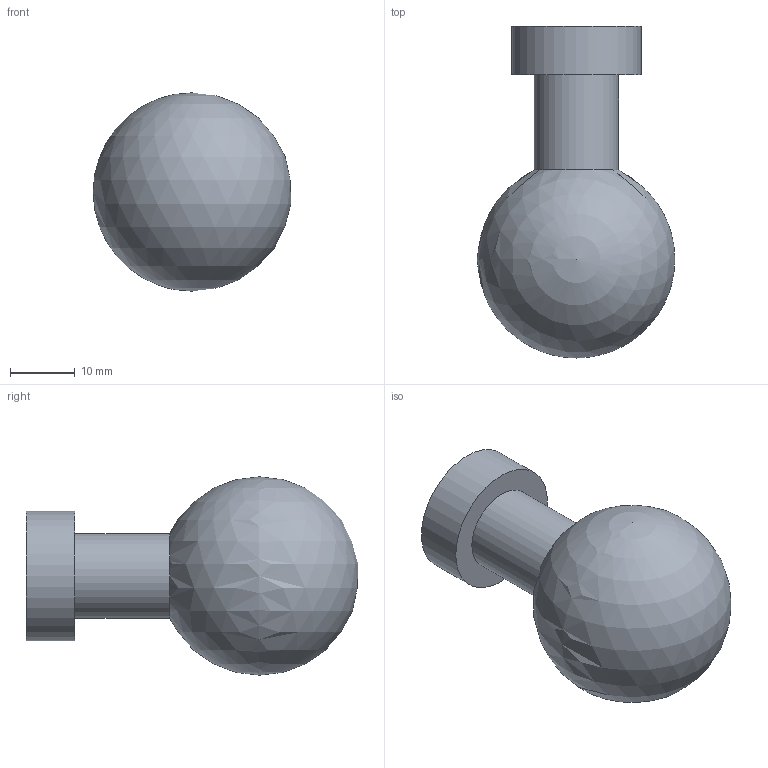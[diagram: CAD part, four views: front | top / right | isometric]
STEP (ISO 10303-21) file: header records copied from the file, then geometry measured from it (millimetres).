
FILE_DESCRIPTION(/* description */ (''),/* implementation_level */ '2;1');
FILE_NAME(/* name */ 'H:\5-Olympiades\47e\Sujet Régional\Etau\A donner aux candidats\2-Après-Midi\10-Sphère.stp',/* time_stamp */ '2022-03-30T09:25:47+02:00',/* author */ ('Philippe'),/* organization */ (''),/* preprocessor_version */ 'ST-DEVELOPER v18',/* originating_system */ 'Autodesk Inventor 2020',/* authorisation */ '');
FILE_SCHEMA (('CONFIG_CONTROL_DESIGN'));
Length unit declared in the file: millimetre
Products named in the file (1): 10-Sphère
Bounding box: 30.49 x 51.19 x 30.6 mm (x, y, z)
Volume: 18317.7 mm3; surface area: 5100.8 mm2
Topology: 1 solids, 2 shells, 13 faces, 35 edges, 26 vertices
Faces by surface type: plane 7, cylinder 4, cone 1, sphere 1
Full cylindrical faces by diameter (mm): 4.917 x1, 13 x1, 20 x1
Entity records: 451 total; most frequent: DIRECTION 74, CARTESIAN_POINT 72, ORIENTED_EDGE 60, EDGE_CURVE 32, AXIS2_PLACEMENT_3D 28, VERTEX_POINT 26, LINE 18, VECTOR 18
